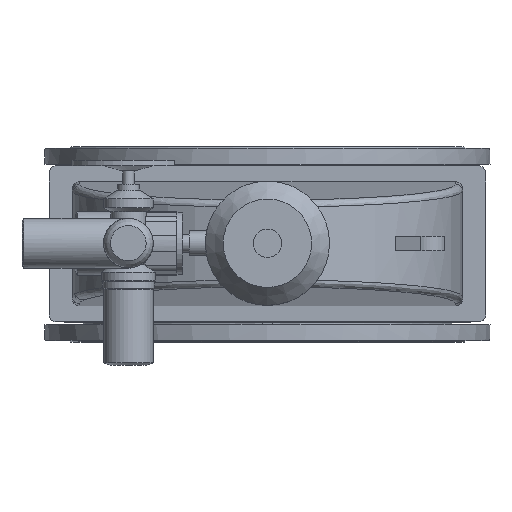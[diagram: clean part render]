
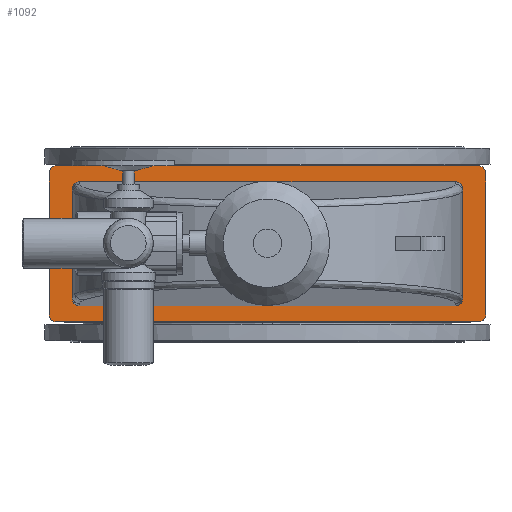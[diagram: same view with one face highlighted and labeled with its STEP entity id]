
A CAD part, top view. The second image highlights one B-rep face of the part: STEP entity #1092.
In plain terms, the highlighted planar face has unit normal (0, 0, 1).
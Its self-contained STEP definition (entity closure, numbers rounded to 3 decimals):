
#1092=ADVANCED_FACE('',(#4933,#4935),#4937,.T.);
#4933=FACE_BOUND('',#4934,.T.);
#4934=EDGE_LOOP('',(#9714,#9715,#9716,#9717,#9718,#9719,#9720,#9721));
#4935=FACE_BOUND('',#4936,.T.);
#4936=EDGE_LOOP('',(#9722,#9723,#9724,#9725,#9726,#9727,#9728,#9729));
#4937=PLANE('',#4938);
#4938=AXIS2_PLACEMENT_3D('',#4939,#4940,#4941);
#4939=CARTESIAN_POINT('',(0.,0.,1086.));
#4940=DIRECTION('',(0.,-0.,1.));
#4941=DIRECTION('',(0.,1.,0.));
#9714=ORIENTED_EDGE('',*,*,#11131,.F.);
#9715=ORIENTED_EDGE('',*,*,#11132,.T.);
#9716=ORIENTED_EDGE('',*,*,#11133,.F.);
#9717=ORIENTED_EDGE('',*,*,#11134,.T.);
#9718=ORIENTED_EDGE('',*,*,#11135,.F.);
#9719=ORIENTED_EDGE('',*,*,#11136,.T.);
#9720=ORIENTED_EDGE('',*,*,#11137,.F.);
#9721=ORIENTED_EDGE('',*,*,#11138,.T.);
#9722=ORIENTED_EDGE('',*,*,#11129,.F.);
#9723=ORIENTED_EDGE('',*,*,#11128,.F.);
#9724=ORIENTED_EDGE('',*,*,#11130,.F.);
#9725=ORIENTED_EDGE('',*,*,#11105,.F.);
#9726=ORIENTED_EDGE('',*,*,#11139,.F.);
#9727=ORIENTED_EDGE('',*,*,#11140,.F.);
#9728=ORIENTED_EDGE('',*,*,#11141,.F.);
#9729=ORIENTED_EDGE('',*,*,#11098,.F.);
#11098=EDGE_CURVE('',#12077,#12079,#12080,.T.);
#11105=EDGE_CURVE('',#12089,#12087,#12091,.T.);
#11128=EDGE_CURVE('',#12126,#12124,#12128,.T.);
#11129=EDGE_CURVE('',#12124,#12077,#12129,.F.);
#11130=EDGE_CURVE('',#12087,#12126,#12130,.T.);
#11131=EDGE_CURVE('',#12131,#12132,#12133,.F.);
#11132=EDGE_CURVE('',#12131,#12134,#12135,.T.);
#11133=EDGE_CURVE('',#12136,#12134,#12137,.F.);
#11134=EDGE_CURVE('',#12136,#12138,#12139,.T.);
#11135=EDGE_CURVE('',#12140,#12138,#12141,.F.);
#11136=EDGE_CURVE('',#12140,#12142,#12143,.T.);
#11137=EDGE_CURVE('',#12144,#12142,#12145,.F.);
#11138=EDGE_CURVE('',#12144,#12132,#12146,.T.);
#11139=EDGE_CURVE('',#12147,#12089,#12148,.F.);
#11140=EDGE_CURVE('',#12149,#12147,#12150,.T.);
#11141=EDGE_CURVE('',#12079,#12149,#12151,.T.);
#12077=VERTEX_POINT('',#15023);
#12079=VERTEX_POINT('',#15027);
#12080=LINE('',#15028,#15029);
#12087=VERTEX_POINT('',#15048);
#12089=VERTEX_POINT('',#15052);
#12091=LINE('',#15056,#15057);
#12124=VERTEX_POINT('',#15139);
#12126=VERTEX_POINT('',#15143);
#12128=LINE('',#15147,#15148);
#12129=(BOUNDED_CURVE()B_SPLINE_CURVE(3,
(#15150,#15151,#15152,#15153),
.UNSPECIFIED.,.F.,.F.)B_SPLINE_CURVE_WITH_KNOTS((4,4),
(0.,1.),
.UNSPECIFIED.)CURVE()GEOMETRIC_REPRESENTATION_ITEM()RATIONAL_B_SPLINE_CURVE((1.,
0.805,0.805,1.))REPRESENTATION_ITEM(''));
#12130=(BOUNDED_CURVE()B_SPLINE_CURVE(3,
(#15154,#15155,#15156,#15157),
.UNSPECIFIED.,.F.,.F.)B_SPLINE_CURVE_WITH_KNOTS((4,4),
(0.,1.),
.UNSPECIFIED.)CURVE()GEOMETRIC_REPRESENTATION_ITEM()RATIONAL_B_SPLINE_CURVE((1.,
0.805,0.805,1.))REPRESENTATION_ITEM(''));
#12131=VERTEX_POINT('',#15158);
#12132=VERTEX_POINT('',#15159);
#12133=CIRCLE('',#15160,20.);
#12134=VERTEX_POINT('',#15164);
#12135=LINE('',#15165,#15166);
#12136=VERTEX_POINT('',#15168);
#12137=CIRCLE('',#15169,20.);
#12138=VERTEX_POINT('',#15173);
#12139=LINE('',#15174,#15175);
#12140=VERTEX_POINT('',#15177);
#12141=CIRCLE('',#15178,20.);
#12142=VERTEX_POINT('',#15182);
#12143=LINE('',#15183,#15184);
#12144=VERTEX_POINT('',#15186);
#12145=CIRCLE('',#15187,20.);
#12146=LINE('',#15191,#15192);
#12147=VERTEX_POINT('',#15194);
#12148=(BOUNDED_CURVE()B_SPLINE_CURVE(3,
(#15195,#15196,#15197,#15198),
.UNSPECIFIED.,.F.,.F.)B_SPLINE_CURVE_WITH_KNOTS((4,4),
(0.,1.),
.UNSPECIFIED.)CURVE()GEOMETRIC_REPRESENTATION_ITEM()RATIONAL_B_SPLINE_CURVE((1.,
0.805,0.805,1.))REPRESENTATION_ITEM(''));
#12149=VERTEX_POINT('',#15199);
#12150=LINE('',#15200,#15201);
#12151=(BOUNDED_CURVE()B_SPLINE_CURVE(3,
(#15203,#15204,#15205,#15206),
.UNSPECIFIED.,.F.,.F.)B_SPLINE_CURVE_WITH_KNOTS((4,4),
(0.,1.),
.UNSPECIFIED.)CURVE()GEOMETRIC_REPRESENTATION_ITEM()RATIONAL_B_SPLINE_CURVE((1.,
0.805,0.805,1.))REPRESENTATION_ITEM(''));
#15023=CARTESIAN_POINT('',(550.,-154.924,1086.));
#15027=CARTESIAN_POINT('',(550.,154.924,1086.));
#15028=CARTESIAN_POINT('',(550.,-154.924,1086.));
#15029=VECTOR('',#15030,1.);
#15030=DIRECTION('',(0.,1.,0.));
#15048=CARTESIAN_POINT('',(-550.,-154.924,1086.));
#15052=CARTESIAN_POINT('',(-550.,154.924,1086.));
#15056=CARTESIAN_POINT('',(-550.,154.924,1086.));
#15057=VECTOR('',#15058,1.);
#15058=DIRECTION('',(0.,-1.,0.));
#15139=CARTESIAN_POINT('',(530.,-175.,1086.));
#15143=CARTESIAN_POINT('',(-530.,-175.,1086.));
#15147=CARTESIAN_POINT('',(-530.,-175.,1086.));
#15148=VECTOR('',#15149,1.);
#15149=DIRECTION('',(1.,0.,0.));
#15150=CARTESIAN_POINT('',(550.,-154.924,1086.));
#15151=CARTESIAN_POINT('',(550.,-166.684,1086.));
#15152=CARTESIAN_POINT('',(541.716,-175.,1086.));
#15153=CARTESIAN_POINT('',(530.,-175.,1086.));
#15154=CARTESIAN_POINT('',(-550.,-154.924,1086.));
#15155=CARTESIAN_POINT('',(-550.,-166.684,1086.));
#15156=CARTESIAN_POINT('',(-541.716,-175.,1086.));
#15157=CARTESIAN_POINT('',(-530.,-175.,1086.));
#15158=CARTESIAN_POINT('',(-595.,-220.,1086.));
#15159=CARTESIAN_POINT('',(-615.,-200.,1086.));
#15160=AXIS2_PLACEMENT_3D('',#15161,#15162,#15163);
#15161=CARTESIAN_POINT('',(-595.,-200.,1086.));
#15162=DIRECTION('',(0.,-0.,1.));
#15163=DIRECTION('',(-1.,0.,0.));
#15164=CARTESIAN_POINT('',(595.,-220.,1086.));
#15165=CARTESIAN_POINT('',(-595.,-220.,1086.));
#15166=VECTOR('',#15167,1.);
#15167=DIRECTION('',(1.,0.,0.));
#15168=CARTESIAN_POINT('',(615.,-200.,1086.));
#15169=AXIS2_PLACEMENT_3D('',#15170,#15171,#15172);
#15170=CARTESIAN_POINT('',(595.,-200.,1086.));
#15171=DIRECTION('',(0.,-0.,1.));
#15172=DIRECTION('',(0.,-1.,0.));
#15173=CARTESIAN_POINT('',(615.,200.,1086.));
#15174=CARTESIAN_POINT('',(615.,-200.,1086.));
#15175=VECTOR('',#15176,1.);
#15176=DIRECTION('',(0.,1.,0.));
#15177=CARTESIAN_POINT('',(595.,220.,1086.));
#15178=AXIS2_PLACEMENT_3D('',#15179,#15180,#15181);
#15179=CARTESIAN_POINT('',(595.,200.,1086.));
#15180=DIRECTION('',(0.,-0.,1.));
#15181=DIRECTION('',(1.,0.,0.));
#15182=CARTESIAN_POINT('',(-595.,220.,1086.));
#15183=CARTESIAN_POINT('',(595.,220.,1086.));
#15184=VECTOR('',#15185,1.);
#15185=DIRECTION('',(-1.,0.,0.));
#15186=CARTESIAN_POINT('',(-615.,200.,1086.));
#15187=AXIS2_PLACEMENT_3D('',#15188,#15189,#15190);
#15188=CARTESIAN_POINT('',(-595.,200.,1086.));
#15189=DIRECTION('',(0.,-0.,1.));
#15190=DIRECTION('',(0.,1.,0.));
#15191=CARTESIAN_POINT('',(-615.,200.,1086.));
#15192=VECTOR('',#15193,1.);
#15193=DIRECTION('',(0.,-1.,0.));
#15194=CARTESIAN_POINT('',(-530.,175.,1086.));
#15195=CARTESIAN_POINT('',(-550.,154.924,1086.));
#15196=CARTESIAN_POINT('',(-550.,166.684,1086.));
#15197=CARTESIAN_POINT('',(-541.716,175.,1086.));
#15198=CARTESIAN_POINT('',(-530.,175.,1086.));
#15199=CARTESIAN_POINT('',(530.,175.,1086.));
#15200=CARTESIAN_POINT('',(530.,175.,1086.));
#15201=VECTOR('',#15202,1.);
#15202=DIRECTION('',(-1.,0.,0.));
#15203=CARTESIAN_POINT('',(550.,154.924,1086.));
#15204=CARTESIAN_POINT('',(550.,166.684,1086.));
#15205=CARTESIAN_POINT('',(541.716,175.,1086.));
#15206=CARTESIAN_POINT('',(530.,175.,1086.));
